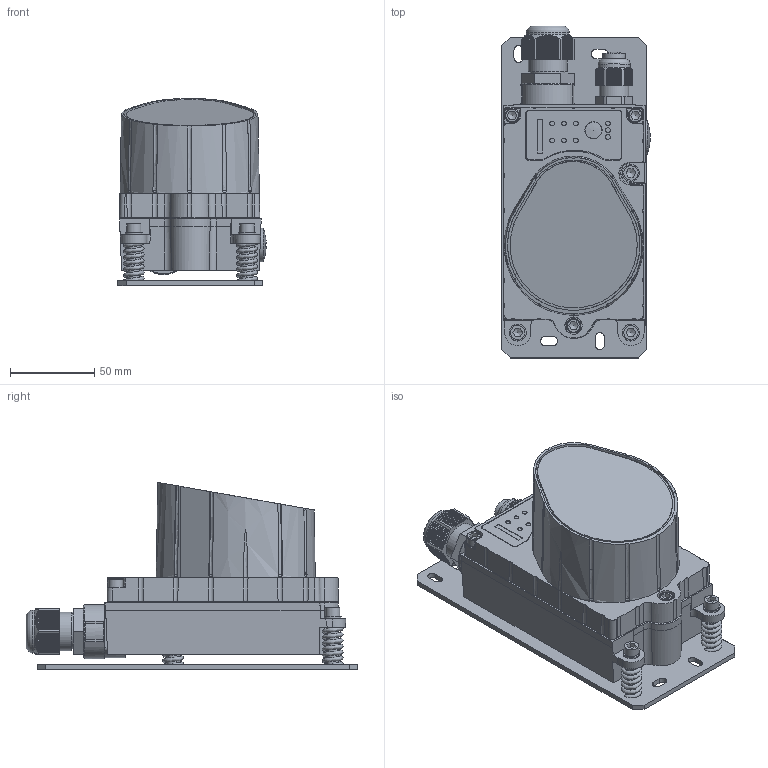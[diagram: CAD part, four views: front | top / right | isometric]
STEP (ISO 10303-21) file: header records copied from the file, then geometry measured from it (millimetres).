
FILE_DESCRIPTION((''),'2;1');
FILE_NAME('E:\ideas_PC1353\klehmann\ddls200_ethernet_m.stp', '2005-12-06T09:38:09',('User'),('SDRC'),'I-DEAS Master Series 9','UNIX', 'Yes');
FILE_SCHEMA(('CONFIG_CONTROL_DESIGN', 'GEOMETRIC_VALIDATION_PROPERTIES_MIM','SHAPE_APPEARANCE_LAYER_MIM'));
Length unit declared in the file: millimetre
Bounding box: 87.94 x 196.5 x 110.8 mm (x, y, z)
Volume: 839735.8 mm3; surface area: 108081.9 mm2
Topology: 1 solids, 1 shells, 873 faces, 2569 edges, 1852 vertices
Faces by surface type: bspline 873
Entity records: 35087 total; most frequent: CARTESIAN_POINT 19808, ORIENTED_EDGE 4832, EDGE_CURVE 2416, VERTEX_POINT 1594, B_SPLINE_CURVE_WITH_KNOTS 1176, OVER_RIDING_STYLED_ITEM 1068, EDGE_LOOP 942, FACE_OUTER_BOUND 873
